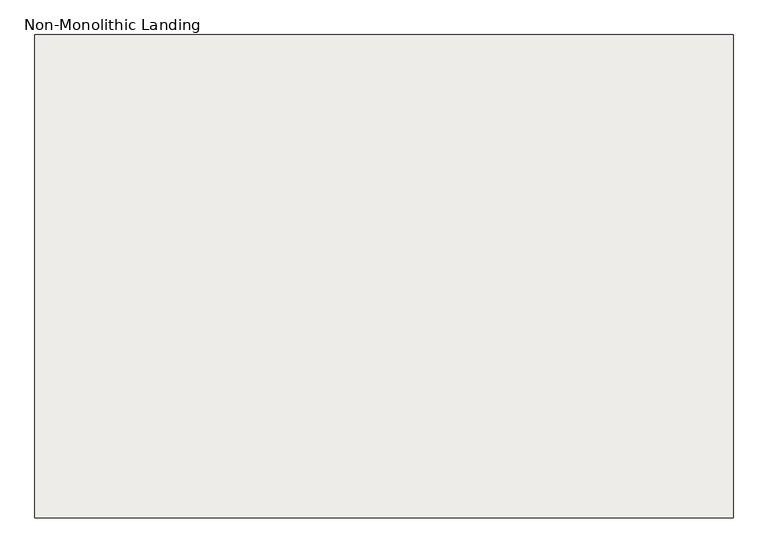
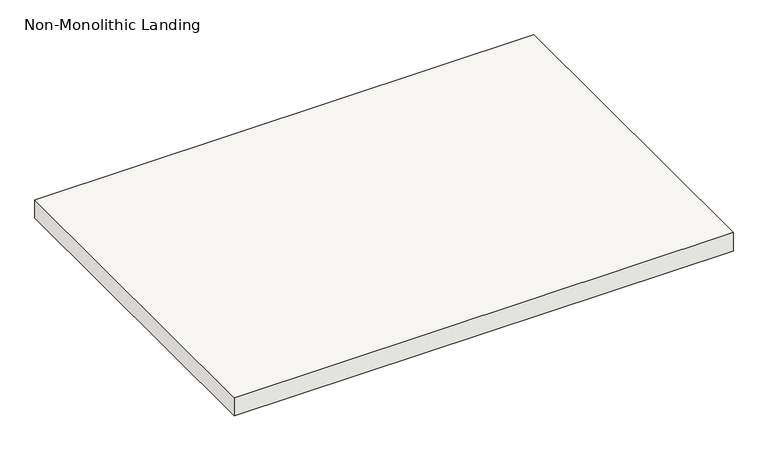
"""IFC4 building model written with IfcOpenShell, lengths in millimetres: slab geometry, Non-Monolithic Landing."""

from ifc_helpers import new_model, si_unit, frame, origin, place, context, project, spatial, polyline, outline, extrude, source, transform, mapped, element, save


def non_monolithic_landing_be884bdb(model_context):
    return source(origin(), model_context, "Body", "SweptSolid", [
        extrude(outline(polyline([(112406.2736551, -1477.5711813), (113727.0736551, -1477.5711813), (113727.0736551, -2391.9711813), (112406.2736551, -2391.9711813), (112406.2736551, -1477.5711813)])), frame((0.0, 0.0, 2126.3428571), z_axis=(0.0, 0.0, 1.0), x_axis=(1.0, 0.0, 0.0)), (0.0, 0.0, 1.0), 50.8),
    ])


if __name__ == "__main__":
    model = new_model("IFC4")
    model_context = context("Model", 3, world=origin())
    ifc_project = project(units=[si_unit("LENGTHUNIT", "METRE", prefix="MILLI")], contexts=[model_context])
    site = spatial("IfcSite", under=ifc_project)
    building = spatial("IfcBuilding", under=site)
    placement = place(None, origin())
    non_monolithic_landing_shape = non_monolithic_landing_be884bdb(model_context)
    element("IfcSlab", 1, ObjectType="Non-Monolithic Landing", at=placement, inside=building, context=model_context, shape_type="MappedRepresentation", body=[
        mapped(non_monolithic_landing_shape, transform((0.0, 0.0, 0.0), x_axis=(1.0, 0.0, 0.0), y_axis=(0.0, 1.0, 0.0), z_axis=(0.0, 0.0, 1.0))),
    ])
    save(model, "model.ifc")
